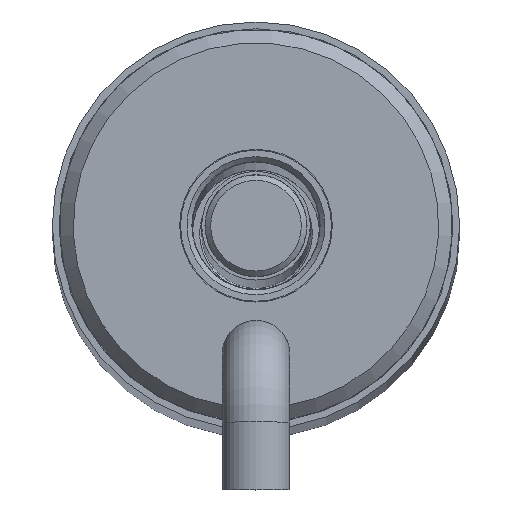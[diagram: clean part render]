
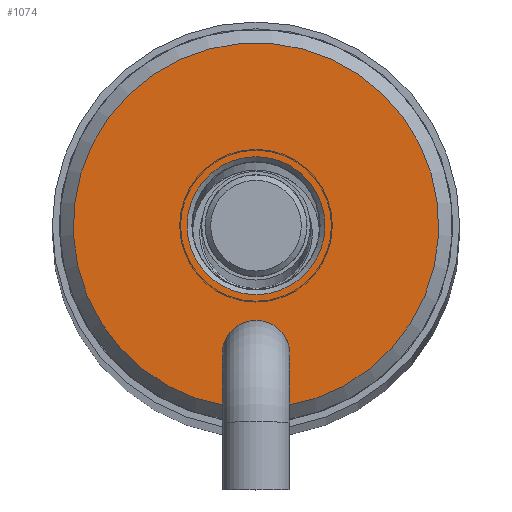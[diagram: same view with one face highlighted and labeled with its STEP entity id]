
A CAD part, top view. The second image highlights one B-rep face of the part: STEP entity #1074.
In plain terms, the highlighted planar face has unit normal (0, 0, 1).
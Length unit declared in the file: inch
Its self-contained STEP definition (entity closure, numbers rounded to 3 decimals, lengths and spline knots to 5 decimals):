
#78=FACE_BOUND('',#214,.T.);
#116=PLANE('',#1254);
#145=FACE_OUTER_BOUND('',#213,.T.);
#213=EDGE_LOOP('',(#719,#720,#721,#722,#723));
#214=EDGE_LOOP('',(#724));
#294=LINE('',#1700,#344);
#297=LINE('',#1710,#347);
#344=VECTOR('',#1401,0.3937);
#347=VECTOR('',#1406,0.3937);
#396=CIRCLE('',#1249,0.0625);
#398=CIRCLE('',#1251,0.0625);
#399=CIRCLE('',#1255,0.3365);
#400=CIRCLE('',#1256,0.127);
#448=VERTEX_POINT('',#1686);
#449=VERTEX_POINT('',#1688);
#452=VERTEX_POINT('',#1694);
#453=VERTEX_POINT('',#1699);
#456=VERTEX_POINT('',#1709);
#457=VERTEX_POINT('',#1712);
#550=EDGE_CURVE('',#449,#448,#396,.T.);
#554=EDGE_CURVE('',#448,#452,#398,.T.);
#555=EDGE_CURVE('',#453,#449,#294,.T.);
#559=EDGE_CURVE('',#452,#456,#297,.T.);
#560=EDGE_CURVE('',#453,#456,#399,.T.);
#561=EDGE_CURVE('',#457,#457,#400,.T.);
#719=ORIENTED_EDGE('',*,*,#550,.T.);
#720=ORIENTED_EDGE('',*,*,#554,.T.);
#721=ORIENTED_EDGE('',*,*,#559,.T.);
#722=ORIENTED_EDGE('',*,*,#560,.F.);
#723=ORIENTED_EDGE('',*,*,#555,.T.);
#724=ORIENTED_EDGE('',*,*,#561,.T.);
#1074=ADVANCED_FACE('',(#145,#78),#116,.T.);
#1249=AXIS2_PLACEMENT_3D('',#1689,#1389,#1390);
#1251=AXIS2_PLACEMENT_3D('',#1696,#1395,#1396);
#1254=AXIS2_PLACEMENT_3D('',#1708,#1404,#1405);
#1255=AXIS2_PLACEMENT_3D('',#1711,#1407,#1408);
#1256=AXIS2_PLACEMENT_3D('',#1713,#1409,#1410);
#1389=DIRECTION('center_axis',(0.,0.,
-1.));
#1390=DIRECTION('ref_axis',(1.,0.,0.));
#1395=DIRECTION('center_axis',(0.,0.,
-1.));
#1396=DIRECTION('ref_axis',(1.,0.,0.));
#1401=DIRECTION('',(0.,1.,0.));
#1404=DIRECTION('center_axis',(0.,0.,
1.));
#1405=DIRECTION('ref_axis',(1.,0.,0.));
#1406=DIRECTION('',(0.,-1.,0.));
#1407=DIRECTION('center_axis',(0.,0.,
-1.));
#1408=DIRECTION('ref_axis',(-1.,0.,0.));
#1409=DIRECTION('center_axis',(0.,0.,
-1.));
#1410=DIRECTION('ref_axis',(-1.,0.,0.));
#1686=CARTESIAN_POINT('',(-0.0625,-0.237,8.49));
#1688=CARTESIAN_POINT('',(-0.053,-0.27012,8.49));
#1689=CARTESIAN_POINT('Origin',(0.,-0.237,8.49));
#1694=CARTESIAN_POINT('',(0.053,-0.27012,8.49));
#1696=CARTESIAN_POINT('Origin',(0.,-0.237,8.49));
#1699=CARTESIAN_POINT('',(-0.053,-0.3323,8.49));
#1700=CARTESIAN_POINT('',(-0.053,0.04975,8.49));
#1708=CARTESIAN_POINT('Origin',(0.,0.3365,8.49));
#1709=CARTESIAN_POINT('',(0.053,-0.3323,8.49));
#1710=CARTESIAN_POINT('',(0.053,-0.01055,8.49));
#1711=CARTESIAN_POINT('Origin',(0.,0.,
8.49));
#1712=CARTESIAN_POINT('',(0.,-0.127,8.49));
#1713=CARTESIAN_POINT('Origin',(0.,0.,
8.49));
